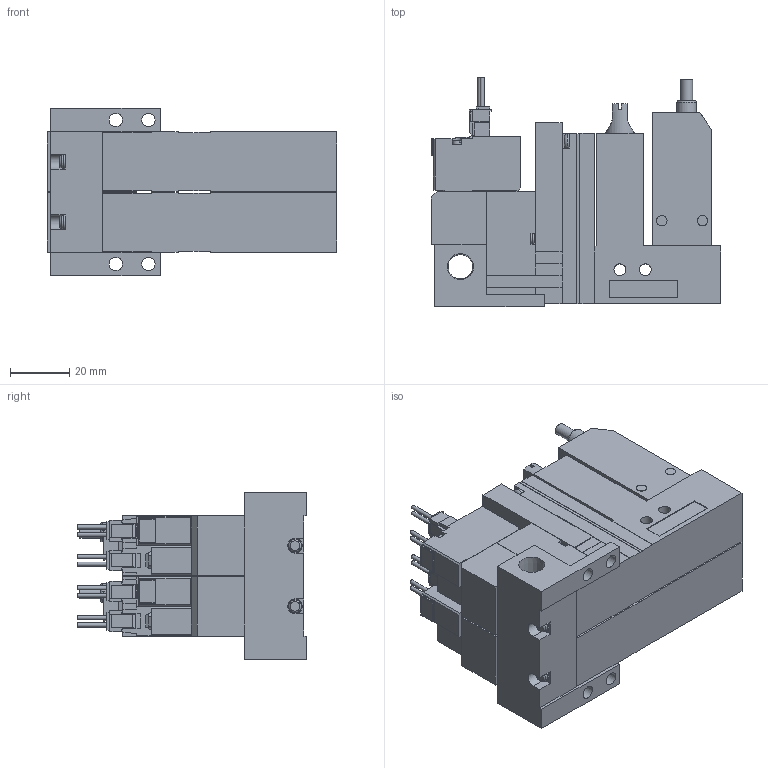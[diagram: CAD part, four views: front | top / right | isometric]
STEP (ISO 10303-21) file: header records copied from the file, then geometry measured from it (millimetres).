
FILE_DESCRIPTION(('STEP AP203'),'1');
FILE_NAME('ABS_ABPLC5ALR202.stp','2025-02-18T06:31:05',(' '),(' '),'Spatial InterOp 3D',' ',' ');
FILE_SCHEMA(('CONFIG_CONTROL_DESIGN'));
Length unit declared in the file: millimetre
Products named in the file (5): BMC22M※※※※ABS_ABPLC5ALR202; Solenoid valve A; Pressure sensor ABSLC; Unit LC; Base MR20R
Assembly tree (7 placements, depth 2):
  BMC22M※※※※ABS_ABPLC5ALR202
    Solenoid valve A  x2
    Pressure sensor ABSLC  x2
    Unit LC  x2
    Base MR20R
Bounding box: 97.6 x 77.45 x 56.5 mm (x, y, z)
Volume: 208784.3 mm3; surface area: 55732 mm2
Topology: 7 solids, 7 shells, 843 faces, 2261 edges, 1484 vertices
Faces by surface type: plane 714, cylinder 101, cone 16, torus 12
Full cylindrical faces by diameter (mm): 1.4 x8, 2.5 x2, 3 x8, 3.5 x12, 3.6 x2, 4 x6, 4.134 x2, 4.5 x4, 5.2 x2, 6 x2, 6.5 x2, 6.6 x2, 8.279 x1
Entity records: 13892 total; most frequent: CARTESIAN_POINT 2590, ORIENTED_EDGE 2250, DIRECTION 2192, EDGE_CURVE 1125, LINE 956, VECTOR 956, VERTEX_POINT 770, AXIS2_PLACEMENT_3D 618
